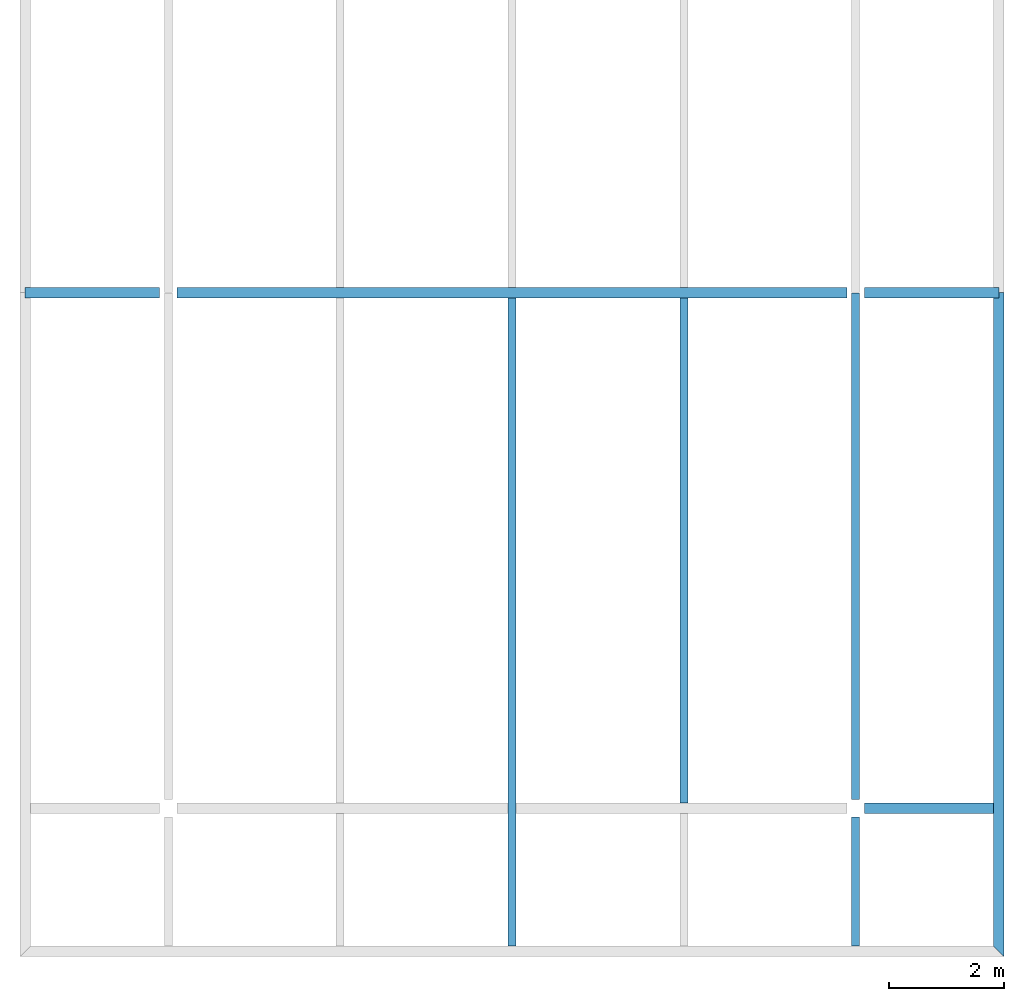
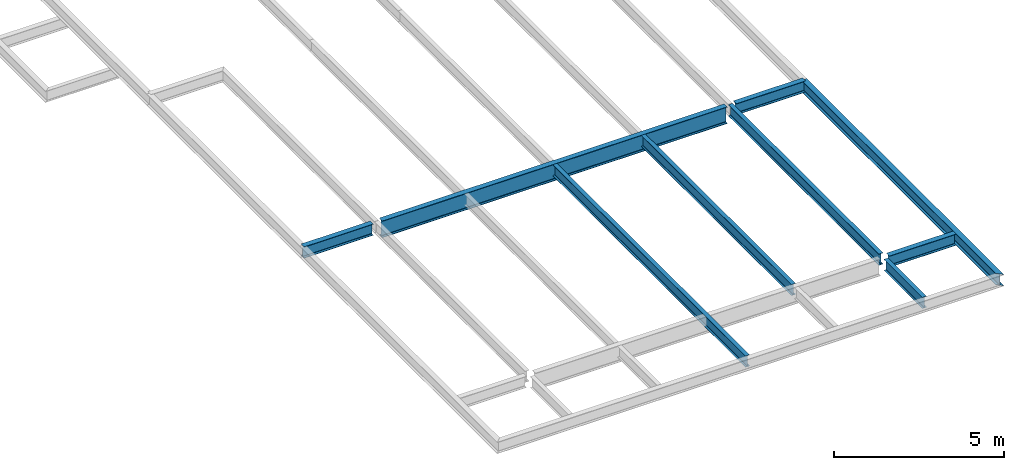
# One storey, part 2 of 7: 9 beams.
"""IFC2X3 building model written with IfcOpenShell, lengths in millimetres."""

import ifcopenshell
import ifcopenshell.guid

model = None  # the IFC model being written
_history = None  # IfcOwnerHistory: only IFC2X3 demands one
_inside = {}  # id of a spatial element -> (the spatial element, [elements in it])
_under = {}  # id of a project, library or spatial element -> (it, [spatial elements below it])
_declared = {}  # id of a project -> (the project, [libraries it declares])
_typed = {}  # id of a type object -> (the type object, [elements of that type])
_made_of = {}  # id of a material, layer set ... -> (it, [elements and type objects made of it])


def new_model(schema):
    """Start an empty IFC model of exactly this schema.

    Asked for "IFC4X3", IfcOpenShell would pick the latest addendum, in which some entities
    have other attributes; the version numbers below select the first issue.
    IFC2X3 requires an IfcOwnerHistory on every rooted entity: one is made here for all.
    """
    global model, _history
    if schema == "IFC4X3":
        model = ifcopenshell.file(schema_version=(4, 3, 0, 0))
    else:
        model = ifcopenshell.file(schema=schema)
    _inside.clear()
    _under.clear()
    _declared.clear()
    _typed.clear()
    _made_of.clear()
    _history = None
    if model.schema == "IFC2X3":
        org = make("IfcOrganization", Name="unknown")
        user = make(
            "IfcPersonAndOrganization",
            ThePerson=make("IfcPerson", FamilyName="unknown"),
            TheOrganization=org,
        )
        app = make(
            "IfcApplication",
            ApplicationDeveloper=org,
            Version="unknown",
            ApplicationFullName="unknown",
            ApplicationIdentifier="unknown",
        )
        _history = make(
            "IfcOwnerHistory",
            OwningUser=user,
            OwningApplication=app,
            ChangeAction="ADDED",
            CreationDate=0,
        )
    return model


def make(cls, **values):
    """One entity of the class cls with the attributes given. An attribute that is None is left unset."""
    return model.create_entity(
        cls, **{name: value for name, value in values.items() if value is not None}
    )


def rooted(cls, **values):
    """An entity with a GlobalId (a new one), such as an element, a storey or a relation."""
    return make(cls, GlobalId=ifcopenshell.guid.new(), OwnerHistory=_history, **values)


def si_unit(unit_type, name, prefix=None):
    """IfcSIUnit, for example si_unit("LENGTHUNIT", "METRE", prefix="MILLI")."""
    return make("IfcSIUnit", UnitType=unit_type, Prefix=prefix, Name=name)


def assignment(units):
    """IfcUnitAssignment: the units of a project."""
    return None if units is None else make("IfcUnitAssignment", Units=units)


def point(xyz):
    """IfcCartesianPoint."""
    return None if xyz is None else make("IfcCartesianPoint", Coordinates=xyz)


def direction(xyz):
    """IfcDirection."""
    return None if xyz is None else make("IfcDirection", DirectionRatios=xyz)


def frame(location, z_axis=None, x_axis=None):
    """IfcAxis2Placement3D, a coordinate frame: its origin and axes. An axis left out is left unset."""
    return make(
        "IfcAxis2Placement3D",
        Location=point(location),
        Axis=direction(z_axis),
        RefDirection=direction(x_axis),
    )


def origin():
    """The frame at (0, 0, 0) with its axes left unset."""
    return frame((0.0, 0.0, 0.0))


def place(relative_to, where):
    """IfcLocalPlacement: puts the frame where relative to a parent placement (None: the world)."""
    return make(
        "IfcLocalPlacement", PlacementRelTo=relative_to, RelativePlacement=where
    )


def context(
    kind, dimensions, precision=None, world=None, true_north=None, identifier=None
):
    """IfcGeometricRepresentationContext, for example the 3D "Model" context."""
    return make(
        "IfcGeometricRepresentationContext",
        ContextIdentifier=identifier,
        ContextType=kind,
        CoordinateSpaceDimension=dimensions,
        Precision=precision,
        WorldCoordinateSystem=world,
        TrueNorth=true_north,
    )


def project(units=None, contexts=None):
    """IfcProject with its units and contexts."""
    return rooted(
        "IfcProject",
        Name="project",
        RepresentationContexts=contexts,
        UnitsInContext=assignment(units),
    )


def spatial(cls, under=None, at=None, **own):
    """A site, building, storey or space (cls), placed at a placement, below another one or the project."""
    s = rooted(cls, ObjectPlacement=at, **own)
    if under is not None:
        _under.setdefault(under.id(), (under, []))[1].append(s)
    return s


def faces_of(points, faces, orient=None, outer=None):
    """IfcFace entities. A face is a list of loops; a loop is a list of indices into points, from 0.

    orient and outer hold one flag for each loop. By default every Orientation is true, the
    first loop of a face is its IfcFaceOuterBound and the others are IfcFaceBound.
    """
    made = []
    for i, loops in enumerate(faces):
        bounds = []
        for j, loop in enumerate(loops):
            is_outer = j == 0 if outer is None else outer[i][j]
            bounds.append(
                make(
                    "IfcFaceOuterBound" if is_outer else "IfcFaceBound",
                    Bound=make("IfcPolyLoop", Polygon=[points[k] for k in loop]),
                    Orientation=True if orient is None else orient[i][j],
                )
            )
        made.append(make("IfcFace", Bounds=bounds))
    return made


def faceted_brep(points, faces, orient=None, outer=None, voids=None):
    """IfcFacetedBrep: a solid bounded by flat faces; with voids (closed shells), ...WithVoids."""
    shared = [point(p) for p in points]
    hull = make("IfcClosedShell", CfsFaces=faces_of(shared, faces, orient, outer))
    if voids is None:
        return make("IfcFacetedBrep", Outer=hull)
    return make(
        "IfcFacetedBrepWithVoids",
        Outer=hull,
        Voids=[
            make(cls, CfsFaces=faces_of(shared, fs, o, b)) for cls, fs, o, b in voids
        ],
    )


def shape(context_of_items, identifier, shape_type, items):
    """IfcShapeRepresentation: the items that make up one representation, for example the "Body"."""
    return make(
        "IfcShapeRepresentation",
        ContextOfItems=context_of_items,
        RepresentationIdentifier=identifier,
        RepresentationType=shape_type,
        Items=items,
    )


def material(Name=None, Category=None):
    """IfcMaterial."""
    return make("IfcMaterial", Name=Name, Category=Category)


def made_of(thing, what):
    """Note that an element or type object is made of a material, layer set ...; save() writes the relation."""
    if what is not None:
        _made_of.setdefault(what.id(), (what, []))[1].append(thing)
    return thing


def element(
    cls,
    number,
    at=None,
    inside=None,
    cuts=None,
    type_object=None,
    material=None,
    context=None,
    identifier="Body",
    shape_type=None,
    held_by="IfcProductDefinitionShape",
    body=None,
    shapes=None,
    **own,
):
    """One element of the class cls, such as IfcWall. Its Tag is "e" and its number.

    at: its placement. inside: the storey or other place that contains it. cuts: it is an
    opening in that element (IfcRelVoidsElement). A single representation is given by context,
    identifier, shape_type and body (its items); several are given by shapes. held_by: the class
    of the entity that holds the representations. save() writes the other relations.
    """
    e = rooted(cls, Tag="e%d" % number, ObjectPlacement=at, **own)
    if body is not None:
        shapes = [shape(context, identifier, shape_type, body)]
    if shapes is not None:
        e.Representation = make(held_by, Representations=shapes)
    if inside is not None:
        _inside.setdefault(inside.id(), (inside, []))[1].append(e)
    if cuts is not None:
        rooted(
            "IfcRelVoidsElement", RelatingBuildingElement=cuts, RelatedOpeningElement=e
        )
    if type_object is not None:
        _typed.setdefault(type_object.id(), (type_object, []))[1].append(e)
    return made_of(e, material)


def aggregate(whole, parts):
    """IfcRelAggregates: a whole, such as a stair, and the parts it consists of."""
    return rooted("IfcRelAggregates", RelatingObject=whole, RelatedObjects=parts)


def save(model, path):
    """Write the relations noted so far, then the file.

    IfcRelAggregates (storeys below a building ...), IfcRelContainedInSpatialStructure (elements
    in a storey), IfcRelDefinesByType, IfcRelAssociatesMaterial and IfcRelDeclares: one each for
    every whole, place, type object, material and project.
    """
    for whole, parts in _under.values():
        aggregate(whole, parts)
    for where, things in _inside.values():
        rooted(
            "IfcRelContainedInSpatialStructure",
            RelatedElements=things,
            RelatingStructure=where,
        )
    for kind, things in _typed.values():
        rooted("IfcRelDefinesByType", RelatedObjects=things, RelatingType=kind)
    for what, things in _made_of.values():
        rooted("IfcRelAssociatesMaterial", RelatedObjects=things, RelatingMaterial=what)
    for by, libraries in _declared.values():
        rooted("IfcRelDeclares", RelatingContext=by, RelatedDefinitions=libraries)
    model.write(path)


model = new_model("IFC2X3")

# Units and contexts
context_of_model = context(None, 3, precision=1e-05, world=origin())
ifc_project = project(units=[si_unit("LENGTHUNIT", "METRE", prefix="MILLI")], contexts=[context_of_model])

# Building, storey
building = spatial("IfcBuilding", under=ifc_project, Name="Building", CompositionType="ELEMENT")
storey = spatial("IfcBuildingStorey", under=building, Name="ROF-FRM", CompositionType="ELEMENT")

# Beams
ifc_material_1 = material(Name="A992")
beam_1_placement = place(None, origin())
element("IfcBeam", 1, at=beam_1_placement, inside=storey, material=ifc_material_1, Name="B1129", context=context_of_model, shape_type="Brep", body=[
    faceted_brep([(-2500.0, 8911.0, 31266.0), (-2500.0, 9089.0, 31266.0), (-154.0, 9089.0, 31266.0), (-154.0, 8911.0, 31266.0), (-2500.0, 9089.0, 31278.8), (-154.0, 9089.0, 31278.8), (-2500.0, 9014.05, 31278.8), (-154.0, 9014.05, 31278.8), (-2500.0, 9011.41, 31279.1), (-154.0, 9011.41, 31279.1), (-2500.0, 9008.95, 31280.2), (-154.0, 9008.95, 31280.2), (-2500.0, 9006.84, 31281.8), (-154.0, 9006.84, 31281.8), (-2500.0, 9005.22, 31283.9), (-154.0, 9005.22, 31283.9), (-2500.0, 9004.2, 31286.4), (-154.0, 9004.2, 31286.4), (-2500.0, 9003.85, 31289.0), (-154.0, 9003.85, 31289.0), (-2500.0, 9003.85, 31650.0), (-154.0, 9003.85, 31650.0), (-2500.0, 9004.2, 31652.6), (-154.0, 9004.2, 31652.6), (-2500.0, 9005.22, 31655.1), (-154.0, 9005.22, 31655.1), (-2500.0, 9006.84, 31657.2), (-154.0, 9006.84, 31657.2), (-2500.0, 9008.95, 31658.8), (-154.0, 9008.95, 31658.8), (-2500.0, 9011.41, 31659.9), (-154.0, 9011.41, 31659.9), (-2500.0, 9014.05, 31660.2), (-154.0, 9014.05, 31660.2), (-2500.0, 9089.0, 31660.2), (-154.0, 9089.0, 31660.2), (-2500.0, 9089.0, 31673.0), (-154.0, 9089.0, 31673.0), (-2500.0, 8911.0, 31673.0), (-154.0, 8911.0, 31673.0), (-2500.0, 8911.0, 31660.2), (-154.0, 8911.0, 31660.2), (-2500.0, 8985.95, 31660.2), (-154.0, 8985.95, 31660.2), (-2500.0, 8988.59, 31659.9), (-154.0, 8988.59, 31659.9), (-2500.0, 8991.05, 31658.8), (-154.0, 8991.05, 31658.8), (-2500.0, 8993.16, 31657.2), (-154.0, 8993.16, 31657.2), (-2500.0, 8994.78, 31655.1), (-154.0, 8994.78, 31655.1), (-2500.0, 8995.8, 31652.6), (-154.0, 8995.8, 31652.6), (-2500.0, 8996.15, 31650.0), (-154.0, 8996.15, 31650.0), (-2500.0, 8996.15, 31289.0), (-154.0, 8996.15, 31289.0), (-2500.0, 8995.8, 31286.4), (-154.0, 8995.8, 31286.4), (-2500.0, 8994.78, 31283.9), (-154.0, 8994.78, 31283.9), (-2500.0, 8993.16, 31281.8), (-154.0, 8993.16, 31281.8), (-2500.0, 8991.05, 31280.2), (-154.0, 8991.05, 31280.2), (-2500.0, 8988.59, 31279.1), (-154.0, 8988.59, 31279.1), (-2500.0, 8985.95, 31278.8), (-154.0, 8985.95, 31278.8), (-2500.0, 8911.0, 31278.8), (-154.0, 8911.0, 31278.8)], [[[0, 1, 2, 3]], [[1, 4, 5, 2]], [[4, 6, 7, 5]], [[6, 8, 9, 7]], [[8, 10, 11, 9]], [[10, 12, 13, 11]], [[12, 14, 15, 13]], [[14, 16, 17, 15]], [[16, 18, 19, 17]], [[18, 20, 21, 19]], [[20, 22, 23, 21]], [[22, 24, 25, 23]], [[24, 26, 27, 25]], [[26, 28, 29, 27]], [[28, 30, 31, 29]], [[30, 32, 33, 31]], [[32, 34, 35, 33]], [[34, 36, 37, 35]], [[36, 38, 39, 37]], [[38, 40, 41, 39]], [[40, 42, 43, 41]], [[42, 44, 45, 43]], [[44, 46, 47, 45]], [[46, 48, 49, 47]], [[48, 50, 51, 49]], [[50, 52, 53, 51]], [[52, 54, 55, 53]], [[54, 56, 57, 55]], [[56, 58, 59, 57]], [[58, 60, 61, 59]], [[60, 62, 63, 61]], [[62, 64, 65, 63]], [[64, 66, 67, 65]], [[66, 68, 69, 67]], [[68, 70, 71, 69]], [[70, 0, 3, 71]], [[0, 70, 68, 66, 64, 62, 60, 58, 56, 54, 52, 50, 48, 46, 44, 42, 40, 38, 36, 34, 32, 30, 28, 26, 24, 22, 20, 18, 16, 14, 12, 10, 8, 6, 4, 1]], [[3, 2, 5, 7, 9, 11, 13, 15, 17, 19, 21, 23, 25, 27, 29, 31, 33, 35, 37, 39, 41, 43, 45, 47, 49, 51, 53, 55, 57, 59, 61, 63, 65, 67, 69, 71]]]),
])
ifc_material_2 = material(Name="A992")
beam_2_placement = place(None, origin())
element("IfcBeam", 2, at=beam_2_placement, inside=storey, material=ifc_material_2, Name="B1137", context=context_of_model, shape_type="Brep", body=[
    faceted_brep([(14590.0, -2590.0, 31260.0), (14410.0, -2410.0, 31260.0), (14410.0, 9000.0, 31260.0), (14590.0, 9000.0, 31260.0), (14410.0, -2410.0, 31276.0), (14410.0, 9000.0, 31276.0), (14485.0, -2484.95, 31276.0), (14485.0, 9000.0, 31276.0), (14486.5, -2486.53, 31276.1), (14486.5, 9000.0, 31276.1), (14488.1, -2488.09, 31276.5), (14488.1, 9000.0, 31276.5), (14489.6, -2489.55, 31277.1), (14489.6, 9000.0, 31277.1), (14490.9, -2490.91, 31277.9), (14490.9, 9000.0, 31277.9), (14492.2, -2492.16, 31279.0), (14492.2, 9000.0, 31279.0), (14493.2, -2493.17, 31280.2), (14493.2, 9000.0, 31280.2), (14494.0, -2494.03, 31281.5), (14494.0, 9000.0, 31281.6), (14494.6, -2494.63, 31283.0), (14494.7, 9000.0, 31283.0), (14495.0, -2494.99, 31284.6), (14495.0, 9000.0, 31284.6), (14495.2, -2495.15, 31286.2), (14495.2, 9000.0, 31286.2), (14495.2, -2495.15, 31646.8), (14495.2, 9000.0, 31646.8), (14495.0, -2494.99, 31648.4), (14495.0, 9000.0, 31648.4), (14494.6, -2494.63, 31650.0), (14494.7, 9000.0, 31650.0), (14494.0, -2494.03, 31651.5), (14494.0, 9000.0, 31651.4), (14493.2, -2493.17, 31652.8), (14493.2, 9000.0, 31652.8), (14492.2, -2492.16, 31654.0), (14492.2, 9000.0, 31654.0), (14490.9, -2490.91, 31655.1), (14490.9, 9000.0, 31655.1), (14489.6, -2489.55, 31655.9), (14489.6, 9000.0, 31655.9), (14488.1, -2488.09, 31656.5), (14488.1, 9000.0, 31656.5), (14486.5, -2486.53, 31656.9), (14486.5, 9000.0, 31656.9), (14485.0, -2484.95, 31657.0), (14485.0, 9000.0, 31657.0), (14410.0, -2410.0, 31657.0), (14410.0, 9000.0, 31657.0), (14410.0, -2410.0, 31673.0), (14410.0, 9000.0, 31673.0), (14590.0, -2590.0, 31673.0), (14590.0, 9000.0, 31673.0), (14590.0, -2590.0, 31657.0), (14590.0, 9000.0, 31657.0), (14515.0, -2515.05, 31657.0), (14515.0, 9000.0, 31657.0), (14513.5, -2513.47, 31656.9), (14513.5, 9000.0, 31656.9), (14511.9, -2511.91, 31656.5), (14511.9, 9000.0, 31656.5), (14510.4, -2510.45, 31655.9), (14510.4, 9000.0, 31655.9), (14509.1, -2509.09, 31655.1), (14509.1, 9000.0, 31655.1), (14507.8, -2507.84, 31654.0), (14507.8, 9000.0, 31654.0), (14506.8, -2506.83, 31652.8), (14506.8, 9000.0, 31652.8), (14506.0, -2505.97, 31651.5), (14506.0, 9000.0, 31651.4), (14505.4, -2505.37, 31650.0), (14505.3, 9000.0, 31650.0), (14505.0, -2505.01, 31648.4), (14505.0, 9000.0, 31648.4), (14504.8, -2504.85, 31646.8), (14504.8, 9000.0, 31646.8), (14504.8, -2504.85, 31286.2), (14504.8, 9000.0, 31286.2), (14505.0, -2505.01, 31284.6), (14505.0, 9000.0, 31284.6), (14505.4, -2505.37, 31283.0), (14505.3, 9000.0, 31283.0), (14506.0, -2505.97, 31281.5), (14506.0, 9000.0, 31281.6), (14506.8, -2506.83, 31280.2), (14506.8, 9000.0, 31280.2), (14507.8, -2507.84, 31279.0), (14507.8, 9000.0, 31279.0), (14509.1, -2509.09, 31277.9), (14509.1, 9000.0, 31277.9), (14510.4, -2510.45, 31277.1), (14510.4, 9000.0, 31277.1), (14511.9, -2511.91, 31276.5), (14511.9, 9000.0, 31276.5), (14513.5, -2513.47, 31276.1), (14513.5, 9000.0, 31276.1), (14515.0, -2515.05, 31276.0), (14515.0, 9000.0, 31276.0), (14590.0, -2590.0, 31276.0), (14590.0, 9000.0, 31276.0)], [[[0, 1, 2, 3]], [[1, 4, 5, 2]], [[4, 6, 7, 5]], [[6, 8, 9, 7]], [[8, 10, 11, 9]], [[10, 12, 13, 11]], [[12, 14, 15, 13]], [[14, 16, 17, 15]], [[16, 18, 19, 17]], [[18, 20, 21, 19]], [[20, 22, 23, 21]], [[22, 24, 25, 23]], [[24, 26, 27, 25]], [[26, 28, 29, 27]], [[28, 30, 31, 29]], [[30, 32, 33, 31]], [[32, 34, 35, 33]], [[34, 36, 37, 35]], [[36, 38, 39, 37]], [[38, 40, 41, 39]], [[40, 42, 43, 41]], [[42, 44, 45, 43]], [[44, 46, 47, 45]], [[46, 48, 49, 47]], [[48, 50, 51, 49]], [[50, 52, 53, 51]], [[52, 54, 55, 53]], [[54, 56, 57, 55]], [[56, 58, 59, 57]], [[58, 60, 61, 59]], [[60, 62, 63, 61]], [[62, 64, 65, 63]], [[64, 66, 67, 65]], [[66, 68, 69, 67]], [[68, 70, 71, 69]], [[70, 72, 73, 71]], [[72, 74, 75, 73]], [[74, 76, 77, 75]], [[76, 78, 79, 77]], [[78, 80, 81, 79]], [[80, 82, 83, 81]], [[82, 84, 85, 83]], [[84, 86, 87, 85]], [[86, 88, 89, 87]], [[88, 90, 91, 89]], [[90, 92, 93, 91]], [[92, 94, 95, 93]], [[94, 96, 97, 95]], [[96, 98, 99, 97]], [[98, 100, 101, 99]], [[100, 102, 103, 101]], [[102, 0, 3, 103]], [[0, 102, 100, 98, 96, 94, 92, 90, 88, 86, 84, 82, 80, 78, 76, 74, 72, 70, 68, 66, 64, 62, 60, 58, 56, 54, 52, 50, 48, 46, 44, 42, 40, 38, 36, 34, 32, 30, 28, 26, 24, 22, 20, 18, 16, 14, 12, 10, 8, 6, 4, 1]], [[3, 2, 5, 7, 9, 11, 13, 15, 17, 19, 21, 23, 25, 27, 29, 31, 33, 35, 37, 39, 41, 43, 45, 47, 49, 51, 53, 55, 57, 59, 61, 63, 65, 67, 69, 71, 73, 75, 77, 79, 81, 83, 85, 87, 89, 91, 93, 95, 97, 99, 101, 103]]]),
])
ifc_material_3 = material(Name="A992")
beam_3_placement = place(None, origin())
element("IfcBeam", 3, at=beam_3_placement, inside=storey, material=ifc_material_3, Name="B1159", context=context_of_model, shape_type="Brep", body=[
    faceted_brep([(5930.0, 8910.5, 31270.0), (6070.0, 8910.5, 31270.0), (6070.0, -2410.0, 31270.0), (5930.0, -2410.0, 31270.0), (6070.0, 8910.5, 31281.2), (6070.0, -2410.0, 31281.2), (6013.7, 8910.5, 31281.2), (6013.7, -2410.0, 31281.2), (6011.06, 8910.5, 31281.5), (6011.06, -2410.0, 31281.5), (6008.6, 8910.5, 31282.6), (6008.6, -2410.0, 31282.6), (6006.49, 8910.5, 31284.2), (6006.49, -2410.0, 31284.2), (6004.87, 8910.5, 31286.3), (6004.87, -2410.0, 31286.3), (6003.85, 8910.5, 31288.8), (6003.85, -2410.0, 31288.8), (6003.5, 8910.5, 31291.4), (6003.5, -2410.0, 31291.4), (6003.5, 8910.5, 31651.6), (6003.5, -2410.0, 31651.6), (6003.85, 8910.5, 31654.2), (6003.85, -2410.0, 31654.2), (6004.87, 8910.5, 31656.7), (6004.87, -2410.0, 31656.7), (6006.49, 8910.5, 31658.8), (6006.49, -2410.0, 31658.8), (6008.6, 8910.5, 31660.4), (6008.6, -2410.0, 31660.4), (6011.06, 8910.5, 31661.5), (6011.06, -2410.0, 31661.5), (6013.7, 8910.5, 31661.8), (6013.7, -2410.0, 31661.8), (6070.0, 8910.5, 31661.8), (6070.0, -2410.0, 31661.8), (6070.0, 8910.5, 31673.0), (6070.0, -2410.0, 31673.0), (5930.0, 8910.5, 31673.0), (5930.0, -2410.0, 31673.0), (5930.0, 8910.5, 31661.8), (5930.0, -2410.0, 31661.8), (5986.3, 8910.5, 31661.8), (5986.3, -2410.0, 31661.8), (5988.94, 8910.5, 31661.5), (5988.94, -2410.0, 31661.5), (5991.4, 8910.5, 31660.4), (5991.4, -2410.0, 31660.4), (5993.51, 8910.5, 31658.8), (5993.51, -2410.0, 31658.8), (5995.13, 8910.5, 31656.7), (5995.13, -2410.0, 31656.7), (5996.15, 8910.5, 31654.2), (5996.15, -2410.0, 31654.2), (5996.5, 8910.5, 31651.6), (5996.5, -2410.0, 31651.6), (5996.5, 8910.5, 31291.4), (5996.5, -2410.0, 31291.4), (5996.15, 8910.5, 31288.8), (5996.15, -2410.0, 31288.8), (5995.13, 8910.5, 31286.3), (5995.13, -2410.0, 31286.3), (5993.51, 8910.5, 31284.2), (5993.51, -2410.0, 31284.2), (5991.4, 8910.5, 31282.6), (5991.4, -2410.0, 31282.6), (5988.94, 8910.5, 31281.5), (5988.94, -2410.0, 31281.5), (5986.3, 8910.5, 31281.2), (5986.3, -2410.0, 31281.2), (5930.0, 8910.5, 31281.2), (5930.0, -2410.0, 31281.2)], [[[0, 1, 2, 3]], [[1, 4, 5, 2]], [[4, 6, 7, 5]], [[6, 8, 9, 7]], [[8, 10, 11, 9]], [[10, 12, 13, 11]], [[12, 14, 15, 13]], [[14, 16, 17, 15]], [[16, 18, 19, 17]], [[18, 20, 21, 19]], [[20, 22, 23, 21]], [[22, 24, 25, 23]], [[24, 26, 27, 25]], [[26, 28, 29, 27]], [[28, 30, 31, 29]], [[30, 32, 33, 31]], [[32, 34, 35, 33]], [[34, 36, 37, 35]], [[36, 38, 39, 37]], [[38, 40, 41, 39]], [[40, 42, 43, 41]], [[42, 44, 45, 43]], [[44, 46, 47, 45]], [[46, 48, 49, 47]], [[48, 50, 51, 49]], [[50, 52, 53, 51]], [[52, 54, 55, 53]], [[54, 56, 57, 55]], [[56, 58, 59, 57]], [[58, 60, 61, 59]], [[60, 62, 63, 61]], [[62, 64, 65, 63]], [[64, 66, 67, 65]], [[66, 68, 69, 67]], [[68, 70, 71, 69]], [[70, 0, 3, 71]], [[0, 70, 68, 66, 64, 62, 60, 58, 56, 54, 52, 50, 48, 46, 44, 42, 40, 38, 36, 34, 32, 30, 28, 26, 24, 22, 20, 18, 16, 14, 12, 10, 8, 6, 4, 1]], [[3, 2, 5, 7, 9, 11, 13, 15, 17, 19, 21, 23, 25, 27, 29, 31, 33, 35, 37, 39, 41, 43, 45, 47, 49, 51, 53, 55, 57, 59, 61, 63, 65, 67, 69, 71]]]),
])
ifc_material_4 = material(Name="A992")
beam_4_placement = place(None, origin())
element("IfcBeam", 4, at=beam_4_placement, inside=storey, material=ifc_material_4, Name="B1162", context=context_of_model, shape_type="Brep", body=[
    faceted_brep([(8930.0, 8910.5, 31270.0), (9070.0, 8910.5, 31270.0), (9070.0, 89.5, 31270.0), (8930.0, 89.5, 31270.0), (9070.0, 8910.5, 31281.2), (9070.0, 89.5, 31281.2), (9013.7, 8910.5, 31281.2), (9013.7, 89.5, 31281.2), (9011.06, 8910.5, 31281.5), (9011.06, 89.5, 31281.5), (9008.6, 8910.5, 31282.6), (9008.6, 89.5, 31282.6), (9006.49, 8910.5, 31284.2), (9006.49, 89.5, 31284.2), (9004.87, 8910.5, 31286.3), (9004.87, 89.5, 31286.3), (9003.85, 8910.5, 31288.8), (9003.85, 89.5, 31288.8), (9003.5, 8910.5, 31291.4), (9003.5, 89.5, 31291.4), (9003.5, 8910.5, 31651.6), (9003.5, 89.5, 31651.6), (9003.85, 8910.5, 31654.2), (9003.85, 89.5, 31654.2), (9004.87, 8910.5, 31656.7), (9004.87, 89.5, 31656.7), (9006.49, 8910.5, 31658.8), (9006.49, 89.5, 31658.8), (9008.6, 8910.5, 31660.4), (9008.6, 89.5, 31660.4), (9011.06, 8910.5, 31661.5), (9011.06, 89.5, 31661.5), (9013.7, 8910.5, 31661.8), (9013.7, 89.5, 31661.8), (9070.0, 8910.5, 31661.8), (9070.0, 89.5, 31661.8), (9070.0, 8910.5, 31673.0), (9070.0, 89.5, 31673.0), (8930.0, 8910.5, 31673.0), (8930.0, 89.5, 31673.0), (8930.0, 8910.5, 31661.8), (8930.0, 89.5, 31661.8), (8986.3, 8910.5, 31661.8), (8986.3, 89.5, 31661.8), (8988.94, 8910.5, 31661.5), (8988.94, 89.5, 31661.5), (8991.4, 8910.5, 31660.4), (8991.4, 89.5, 31660.4), (8993.51, 8910.5, 31658.8), (8993.51, 89.5, 31658.8), (8995.13, 8910.5, 31656.7), (8995.13, 89.5, 31656.7), (8996.15, 8910.5, 31654.2), (8996.15, 89.5, 31654.2), (8996.5, 8910.5, 31651.6), (8996.5, 89.5, 31651.6), (8996.5, 8910.5, 31291.4), (8996.5, 89.5, 31291.4), (8996.15, 8910.5, 31288.8), (8996.15, 89.5, 31288.8), (8995.13, 8910.5, 31286.3), (8995.13, 89.5, 31286.3), (8993.51, 8910.5, 31284.2), (8993.51, 89.5, 31284.2), (8991.4, 8910.5, 31282.6), (8991.4, 89.5, 31282.6), (8988.94, 8910.5, 31281.5), (8988.94, 89.5, 31281.5), (8986.3, 8910.5, 31281.2), (8986.3, 89.5, 31281.2), (8930.0, 8910.5, 31281.2), (8930.0, 89.5, 31281.2)], [[[0, 1, 2, 3]], [[1, 4, 5, 2]], [[4, 6, 7, 5]], [[6, 8, 9, 7]], [[8, 10, 11, 9]], [[10, 12, 13, 11]], [[12, 14, 15, 13]], [[14, 16, 17, 15]], [[16, 18, 19, 17]], [[18, 20, 21, 19]], [[20, 22, 23, 21]], [[22, 24, 25, 23]], [[24, 26, 27, 25]], [[26, 28, 29, 27]], [[28, 30, 31, 29]], [[30, 32, 33, 31]], [[32, 34, 35, 33]], [[34, 36, 37, 35]], [[36, 38, 39, 37]], [[38, 40, 41, 39]], [[40, 42, 43, 41]], [[42, 44, 45, 43]], [[44, 46, 47, 45]], [[46, 48, 49, 47]], [[48, 50, 51, 49]], [[50, 52, 53, 51]], [[52, 54, 55, 53]], [[54, 56, 57, 55]], [[56, 58, 59, 57]], [[58, 60, 61, 59]], [[60, 62, 63, 61]], [[62, 64, 65, 63]], [[64, 66, 67, 65]], [[66, 68, 69, 67]], [[68, 70, 71, 69]], [[70, 0, 3, 71]], [[0, 70, 68, 66, 64, 62, 60, 58, 56, 54, 52, 50, 48, 46, 44, 42, 40, 38, 36, 34, 32, 30, 28, 26, 24, 22, 20, 18, 16, 14, 12, 10, 8, 6, 4, 1]], [[3, 2, 5, 7, 9, 11, 13, 15, 17, 19, 21, 23, 25, 27, 29, 31, 33, 35, 37, 39, 41, 43, 45, 47, 49, 51, 53, 55, 57, 59, 61, 63, 65, 67, 69, 71]]]),
])
ifc_material_5 = material(Name="A992")
beam_5_placement = place(None, origin())
element("IfcBeam", 5, at=beam_5_placement, inside=storey, material=ifc_material_5, Name="B1164", context=context_of_model, shape_type="Brep", body=[
    faceted_brep([(11930.0, -152.5, 31274.0), (12070.0, -152.5, 31274.0), (12070.0, -2410.0, 31274.0), (11930.0, -2410.0, 31274.0), (12070.0, -152.5, 31282.8), (12070.0, -2410.0, 31282.8), (12013.4, -152.5, 31282.8), (12013.4, -2410.0, 31282.8), (12010.8, -152.5, 31283.1), (12010.8, -2410.0, 31283.1), (12008.3, -152.5, 31284.2), (12008.3, -2410.0, 31284.2), (12006.2, -152.5, 31285.8), (12006.2, -2410.0, 31285.8), (12004.6, -152.5, 31287.9), (12004.6, -2410.0, 31287.9), (12003.5, -152.5, 31290.4), (12003.5, -2410.0, 31290.4), (12003.2, -152.5, 31293.0), (12003.2, -2410.0, 31293.0), (12003.2, -152.5, 31654.0), (12003.2, -2410.0, 31654.0), (12003.5, -152.5, 31656.6), (12003.5, -2410.0, 31656.6), (12004.6, -152.5, 31659.1), (12004.6, -2410.0, 31659.1), (12006.2, -152.5, 31661.2), (12006.2, -2410.0, 31661.2), (12008.3, -152.5, 31662.8), (12008.3, -2410.0, 31662.8), (12010.8, -152.5, 31663.9), (12010.8, -2410.0, 31663.9), (12013.4, -152.5, 31664.2), (12013.4, -2410.0, 31664.2), (12070.0, -152.5, 31664.2), (12070.0, -2410.0, 31664.2), (12070.0, -152.5, 31673.0), (12070.0, -2410.0, 31673.0), (11930.0, -152.5, 31673.0), (11930.0, -2410.0, 31673.0), (11930.0, -152.5, 31664.2), (11930.0, -2410.0, 31664.2), (11986.6, -152.5, 31664.2), (11986.6, -2410.0, 31664.2), (11989.2, -152.5, 31663.9), (11989.2, -2410.0, 31663.9), (11991.7, -152.5, 31662.8), (11991.7, -2410.0, 31662.8), (11993.8, -152.5, 31661.2), (11993.8, -2410.0, 31661.2), (11995.4, -152.5, 31659.1), (11995.4, -2410.0, 31659.1), (11996.5, -152.5, 31656.6), (11996.5, -2410.0, 31656.6), (11996.8, -152.5, 31654.0), (11996.8, -2410.0, 31654.0), (11996.8, -152.5, 31293.0), (11996.8, -2410.0, 31293.0), (11996.5, -152.5, 31290.4), (11996.5, -2410.0, 31290.4), (11995.4, -152.5, 31287.9), (11995.4, -2410.0, 31287.9), (11993.8, -152.5, 31285.8), (11993.8, -2410.0, 31285.8), (11991.7, -152.5, 31284.2), (11991.7, -2410.0, 31284.2), (11989.2, -152.5, 31283.1), (11989.2, -2410.0, 31283.1), (11986.6, -152.5, 31282.8), (11986.6, -2410.0, 31282.8), (11930.0, -152.5, 31282.8), (11930.0, -2410.0, 31282.8)], [[[0, 1, 2, 3]], [[1, 4, 5, 2]], [[4, 6, 7, 5]], [[6, 8, 9, 7]], [[8, 10, 11, 9]], [[10, 12, 13, 11]], [[12, 14, 15, 13]], [[14, 16, 17, 15]], [[16, 18, 19, 17]], [[18, 20, 21, 19]], [[20, 22, 23, 21]], [[22, 24, 25, 23]], [[24, 26, 27, 25]], [[26, 28, 29, 27]], [[28, 30, 31, 29]], [[30, 32, 33, 31]], [[32, 34, 35, 33]], [[34, 36, 37, 35]], [[36, 38, 39, 37]], [[38, 40, 41, 39]], [[40, 42, 43, 41]], [[42, 44, 45, 43]], [[44, 46, 47, 45]], [[46, 48, 49, 47]], [[48, 50, 51, 49]], [[50, 52, 53, 51]], [[52, 54, 55, 53]], [[54, 56, 57, 55]], [[56, 58, 59, 57]], [[58, 60, 61, 59]], [[60, 62, 63, 61]], [[62, 64, 65, 63]], [[64, 66, 67, 65]], [[66, 68, 69, 67]], [[68, 70, 71, 69]], [[70, 0, 3, 71]], [[0, 70, 68, 66, 64, 62, 60, 58, 56, 54, 52, 50, 48, 46, 44, 42, 40, 38, 36, 34, 32, 30, 28, 26, 24, 22, 20, 18, 16, 14, 12, 10, 8, 6, 4, 1]], [[3, 2, 5, 7, 9, 11, 13, 15, 17, 19, 21, 23, 25, 27, 29, 31, 33, 35, 37, 39, 41, 43, 45, 47, 49, 51, 53, 55, 57, 59, 61, 63, 65, 67, 69, 71]]]),
])
ifc_material_6 = material(Name="A992")
beam_6_placement = place(None, origin())
element("IfcBeam", 6, at=beam_6_placement, inside=storey, material=ifc_material_6, Name="B1165", context=context_of_model, shape_type="Brep", body=[
    faceted_brep([(11930.0, 8995.05, 31270.0), (12070.0, 8995.05, 31270.0), (12070.0, 152.5, 31270.0), (11930.0, 152.5, 31270.0), (12070.0, 8995.05, 31281.2), (12070.0, 152.5, 31281.2), (12013.7, 8995.05, 31281.2), (12013.7, 152.5, 31281.2), (12011.1, 8995.05, 31281.5), (12011.1, 152.5, 31281.5), (12008.6, 8995.05, 31282.6), (12008.6, 152.5, 31282.6), (12006.5, 8995.05, 31284.2), (12006.5, 152.5, 31284.2), (12004.9, 8995.05, 31286.3), (12004.9, 152.5, 31286.3), (12003.8, 8995.05, 31288.8), (12003.8, 152.5, 31288.8), (12003.5, 8995.05, 31291.4), (12003.5, 152.5, 31291.4), (12003.5, 8995.05, 31651.6), (12003.5, 152.5, 31651.6), (12003.8, 8995.05, 31654.2), (12003.8, 152.5, 31654.2), (12004.9, 8995.05, 31656.7), (12004.9, 152.5, 31656.7), (12006.5, 8995.05, 31658.8), (12006.5, 152.5, 31658.8), (12008.6, 8995.05, 31660.4), (12008.6, 152.5, 31660.4), (12011.1, 8995.05, 31661.5), (12011.1, 152.5, 31661.5), (12013.7, 8995.05, 31661.8), (12013.7, 152.5, 31661.8), (12070.0, 8995.05, 31661.8), (12070.0, 152.5, 31661.8), (12070.0, 8995.05, 31673.0), (12070.0, 152.5, 31673.0), (11930.0, 8995.05, 31673.0), (11930.0, 152.5, 31673.0), (11930.0, 8995.05, 31661.8), (11930.0, 152.5, 31661.8), (11986.3, 8995.05, 31661.8), (11986.3, 152.5, 31661.8), (11988.9, 8995.05, 31661.5), (11988.9, 152.5, 31661.5), (11991.4, 8995.05, 31660.4), (11991.4, 152.5, 31660.4), (11993.5, 8995.05, 31658.8), (11993.5, 152.5, 31658.8), (11995.1, 8995.05, 31656.7), (11995.1, 152.5, 31656.7), (11996.2, 8995.05, 31654.2), (11996.2, 152.5, 31654.2), (11996.5, 8995.05, 31651.6), (11996.5, 152.5, 31651.6), (11996.5, 8995.05, 31291.4), (11996.5, 152.5, 31291.4), (11996.2, 8995.05, 31288.8), (11996.2, 152.5, 31288.8), (11995.1, 8995.05, 31286.3), (11995.1, 152.5, 31286.3), (11993.5, 8995.05, 31284.2), (11993.5, 152.5, 31284.2), (11991.4, 8995.05, 31282.6), (11991.4, 152.5, 31282.6), (11988.9, 8995.05, 31281.5), (11988.9, 152.5, 31281.5), (11986.3, 8995.05, 31281.2), (11986.3, 152.5, 31281.2), (11930.0, 8995.05, 31281.2), (11930.0, 152.5, 31281.2)], [[[0, 1, 2, 3]], [[1, 4, 5, 2]], [[4, 6, 7, 5]], [[6, 8, 9, 7]], [[8, 10, 11, 9]], [[10, 12, 13, 11]], [[12, 14, 15, 13]], [[14, 16, 17, 15]], [[16, 18, 19, 17]], [[18, 20, 21, 19]], [[20, 22, 23, 21]], [[22, 24, 25, 23]], [[24, 26, 27, 25]], [[26, 28, 29, 27]], [[28, 30, 31, 29]], [[30, 32, 33, 31]], [[32, 34, 35, 33]], [[34, 36, 37, 35]], [[36, 38, 39, 37]], [[38, 40, 41, 39]], [[40, 42, 43, 41]], [[42, 44, 45, 43]], [[44, 46, 47, 45]], [[46, 48, 49, 47]], [[48, 50, 51, 49]], [[50, 52, 53, 51]], [[52, 54, 55, 53]], [[54, 56, 57, 55]], [[56, 58, 59, 57]], [[58, 60, 61, 59]], [[60, 62, 63, 61]], [[62, 64, 65, 63]], [[64, 66, 67, 65]], [[66, 68, 69, 67]], [[68, 70, 71, 69]], [[70, 0, 3, 71]], [[0, 70, 68, 66, 64, 62, 60, 58, 56, 54, 52, 50, 48, 46, 44, 42, 40, 38, 36, 34, 32, 30, 28, 26, 24, 22, 20, 18, 16, 14, 12, 10, 8, 6, 4, 1]], [[3, 2, 5, 7, 9, 11, 13, 15, 17, 19, 21, 23, 25, 27, 29, 31, 33, 35, 37, 39, 41, 43, 45, 47, 49, 51, 53, 55, 57, 59, 61, 63, 65, 67, 69, 71]]]),
])
ifc_material_7 = material(Name="A992")
beam_7_placement = place(None, origin())
element("IfcBeam", 7, at=beam_7_placement, inside=storey, material=ifc_material_7, Name="B1173", context=context_of_model, shape_type="Brep", body=[
    faceted_brep([(154.0, 8910.5, 31070.0), (154.0, 9089.5, 31070.0), (11846.0, 9089.5, 31070.0), (11846.0, 8910.5, 31070.0), (154.0, 9089.5, 31085.0), (11846.0, 9089.5, 31085.0), (154.0, 9020.65, 31085.0), (11846.0, 9020.65, 31085.0), (154.0, 9016.72, 31085.5), (11846.0, 9016.72, 31085.5), (154.0, 9013.05, 31087.0), (11846.0, 9013.05, 31087.0), (154.0, 9009.9, 31089.5), (11846.0, 9009.9, 31089.5), (154.0, 9007.49, 31092.6), (11846.0, 9007.49, 31092.6), (154.0, 9005.97, 31096.3), (11846.0, 9005.97, 31096.3), (154.0, 9005.45, 31100.2), (11846.0, 9005.45, 31100.2), (154.0, 9005.45, 31642.8), (11846.0, 9005.45, 31642.8), (154.0, 9005.97, 31646.7), (11846.0, 9005.97, 31646.7), (154.0, 9007.49, 31650.4), (11846.0, 9007.49, 31650.4), (154.0, 9009.9, 31653.5), (11846.0, 9009.9, 31653.5), (154.0, 9013.05, 31656.0), (11846.0, 9013.05, 31656.0), (154.0, 9016.72, 31657.5), (11846.0, 9016.72, 31657.5), (154.0, 9020.65, 31658.0), (11846.0, 9020.65, 31658.0), (154.0, 9089.5, 31658.0), (11846.0, 9089.5, 31658.0), (154.0, 9089.5, 31673.0), (11846.0, 9089.5, 31673.0), (154.0, 8910.5, 31673.0), (11846.0, 8910.5, 31673.0), (154.0, 8910.5, 31658.0), (11846.0, 8910.5, 31658.0), (154.0, 8979.35, 31658.0), (11846.0, 8979.35, 31658.0), (154.0, 8983.28, 31657.5), (11846.0, 8983.28, 31657.5), (154.0, 8986.95, 31656.0), (11846.0, 8986.95, 31656.0), (154.0, 8990.1, 31653.5), (11846.0, 8990.1, 31653.5), (154.0, 8992.51, 31650.4), (11846.0, 8992.51, 31650.4), (154.0, 8994.03, 31646.7), (11846.0, 8994.03, 31646.7), (154.0, 8994.55, 31642.8), (11846.0, 8994.55, 31642.8), (154.0, 8994.55, 31100.2), (11846.0, 8994.55, 31100.2), (154.0, 8994.03, 31096.3), (11846.0, 8994.03, 31096.3), (154.0, 8992.51, 31092.6), (11846.0, 8992.51, 31092.6), (154.0, 8990.1, 31089.5), (11846.0, 8990.1, 31089.5), (154.0, 8986.95, 31087.0), (11846.0, 8986.95, 31087.0), (154.0, 8983.28, 31085.5), (11846.0, 8983.28, 31085.5), (154.0, 8979.35, 31085.0), (11846.0, 8979.35, 31085.0), (154.0, 8910.5, 31085.0), (11846.0, 8910.5, 31085.0)], [[[0, 1, 2, 3]], [[1, 4, 5, 2]], [[4, 6, 7, 5]], [[6, 8, 9, 7]], [[8, 10, 11, 9]], [[10, 12, 13, 11]], [[12, 14, 15, 13]], [[14, 16, 17, 15]], [[16, 18, 19, 17]], [[18, 20, 21, 19]], [[20, 22, 23, 21]], [[22, 24, 25, 23]], [[24, 26, 27, 25]], [[26, 28, 29, 27]], [[28, 30, 31, 29]], [[30, 32, 33, 31]], [[32, 34, 35, 33]], [[34, 36, 37, 35]], [[36, 38, 39, 37]], [[38, 40, 41, 39]], [[40, 42, 43, 41]], [[42, 44, 45, 43]], [[44, 46, 47, 45]], [[46, 48, 49, 47]], [[48, 50, 51, 49]], [[50, 52, 53, 51]], [[52, 54, 55, 53]], [[54, 56, 57, 55]], [[56, 58, 59, 57]], [[58, 60, 61, 59]], [[60, 62, 63, 61]], [[62, 64, 65, 63]], [[64, 66, 67, 65]], [[66, 68, 69, 67]], [[68, 70, 71, 69]], [[70, 0, 3, 71]], [[0, 70, 68, 66, 64, 62, 60, 58, 56, 54, 52, 50, 48, 46, 44, 42, 40, 38, 36, 34, 32, 30, 28, 26, 24, 22, 20, 18, 16, 14, 12, 10, 8, 6, 4, 1]], [[3, 2, 5, 7, 9, 11, 13, 15, 17, 19, 21, 23, 25, 27, 29, 31, 33, 35, 37, 39, 41, 43, 45, 47, 49, 51, 53, 55, 57, 59, 61, 63, 65, 67, 69, 71]]]),
])
ifc_material_8 = material(Name="A992")
beam_8_placement = place(None, origin())
element("IfcBeam", 8, at=beam_8_placement, inside=storey, material=ifc_material_8, Name="B1174", context=context_of_model, shape_type="Brep", body=[
    faceted_brep([(12154.0, 8911.0, 31266.0), (12154.0, 9089.0, 31266.0), (14500.0, 9089.0, 31266.0), (14500.0, 8911.0, 31266.0), (12154.0, 9089.0, 31278.8), (14500.0, 9089.0, 31278.8), (12154.0, 9014.05, 31278.8), (14500.0, 9014.05, 31278.8), (12154.0, 9011.41, 31279.1), (14500.0, 9011.41, 31279.1), (12154.0, 9008.95, 31280.2), (14500.0, 9008.95, 31280.2), (12154.0, 9006.84, 31281.8), (14500.0, 9006.84, 31281.8), (12154.0, 9005.22, 31283.9), (14500.0, 9005.22, 31283.9), (12154.0, 9004.2, 31286.4), (14500.0, 9004.2, 31286.4), (12154.0, 9003.85, 31289.0), (14500.0, 9003.85, 31289.0), (12154.0, 9003.85, 31650.0), (14500.0, 9003.85, 31650.0), (12154.0, 9004.2, 31652.6), (14500.0, 9004.2, 31652.6), (12154.0, 9005.22, 31655.1), (14500.0, 9005.22, 31655.1), (12154.0, 9006.84, 31657.2), (14500.0, 9006.84, 31657.2), (12154.0, 9008.95, 31658.8), (14500.0, 9008.95, 31658.8), (12154.0, 9011.41, 31659.9), (14500.0, 9011.41, 31659.9), (12154.0, 9014.05, 31660.2), (14500.0, 9014.05, 31660.2), (12154.0, 9089.0, 31660.2), (14500.0, 9089.0, 31660.2), (12154.0, 9089.0, 31673.0), (14500.0, 9089.0, 31673.0), (12154.0, 8911.0, 31673.0), (14500.0, 8911.0, 31673.0), (12154.0, 8911.0, 31660.2), (14500.0, 8911.0, 31660.2), (12154.0, 8985.95, 31660.2), (14500.0, 8985.95, 31660.2), (12154.0, 8988.59, 31659.9), (14500.0, 8988.59, 31659.9), (12154.0, 8991.05, 31658.8), (14500.0, 8991.05, 31658.8), (12154.0, 8993.16, 31657.2), (14500.0, 8993.16, 31657.2), (12154.0, 8994.78, 31655.1), (14500.0, 8994.78, 31655.1), (12154.0, 8995.8, 31652.6), (14500.0, 8995.8, 31652.6), (12154.0, 8996.15, 31650.0), (14500.0, 8996.15, 31650.0), (12154.0, 8996.15, 31289.0), (14500.0, 8996.15, 31289.0), (12154.0, 8995.8, 31286.4), (14500.0, 8995.8, 31286.4), (12154.0, 8994.78, 31283.9), (14500.0, 8994.78, 31283.9), (12154.0, 8993.16, 31281.8), (14500.0, 8993.16, 31281.8), (12154.0, 8991.05, 31280.2), (14500.0, 8991.05, 31280.2), (12154.0, 8988.59, 31279.1), (14500.0, 8988.59, 31279.1), (12154.0, 8985.95, 31278.8), (14500.0, 8985.95, 31278.8), (12154.0, 8911.0, 31278.8), (14500.0, 8911.0, 31278.8)], [[[0, 1, 2, 3]], [[1, 4, 5, 2]], [[4, 6, 7, 5]], [[6, 8, 9, 7]], [[8, 10, 11, 9]], [[10, 12, 13, 11]], [[12, 14, 15, 13]], [[14, 16, 17, 15]], [[16, 18, 19, 17]], [[18, 20, 21, 19]], [[20, 22, 23, 21]], [[22, 24, 25, 23]], [[24, 26, 27, 25]], [[26, 28, 29, 27]], [[28, 30, 31, 29]], [[30, 32, 33, 31]], [[32, 34, 35, 33]], [[34, 36, 37, 35]], [[36, 38, 39, 37]], [[38, 40, 41, 39]], [[40, 42, 43, 41]], [[42, 44, 45, 43]], [[44, 46, 47, 45]], [[46, 48, 49, 47]], [[48, 50, 51, 49]], [[50, 52, 53, 51]], [[52, 54, 55, 53]], [[54, 56, 57, 55]], [[56, 58, 59, 57]], [[58, 60, 61, 59]], [[60, 62, 63, 61]], [[62, 64, 65, 63]], [[64, 66, 67, 65]], [[66, 68, 69, 67]], [[68, 70, 71, 69]], [[70, 0, 3, 71]], [[0, 70, 68, 66, 64, 62, 60, 58, 56, 54, 52, 50, 48, 46, 44, 42, 40, 38, 36, 34, 32, 30, 28, 26, 24, 22, 20, 18, 16, 14, 12, 10, 8, 6, 4, 1]], [[3, 2, 5, 7, 9, 11, 13, 15, 17, 19, 21, 23, 25, 27, 29, 31, 33, 35, 37, 39, 41, 43, 45, 47, 49, 51, 53, 55, 57, 59, 61, 63, 65, 67, 69, 71]]]),
])
ifc_material_9 = material(Name="A992")
beam_9_placement = place(None, origin())
element("IfcBeam", 9, at=beam_9_placement, inside=storey, material=ifc_material_9, Name="B1176", context=context_of_model, shape_type="Brep", body=[
    faceted_brep([(12152.5, -89.0, 31266.0), (12152.5, 89.0, 31266.0), (14410.0, 89.0, 31266.0), (14410.0, -89.0, 31266.0), (12152.5, 89.0, 31278.8), (14410.0, 89.0, 31278.8), (12152.5, 14.05, 31278.8), (14410.0, 14.05, 31278.8), (12152.5, 11.41, 31279.1), (14410.0, 11.41, 31279.1), (12152.5, 8.95, 31280.2), (14410.0, 8.95, 31280.2), (12152.5, 6.83751, 31281.8), (14410.0, 6.83751, 31281.8), (12152.5, 5.21654, 31283.9), (14410.0, 5.21654, 31283.9), (12152.5, 4.19756, 31286.4), (14410.0, 4.19756, 31286.4), (12152.5, 3.85, 31289.0), (14410.0, 3.85, 31289.0), (12152.5, 3.85, 31650.0), (14410.0, 3.85, 31650.0), (12152.5, 4.19756, 31652.6), (14410.0, 4.19756, 31652.6), (12152.5, 5.21654, 31655.1), (14410.0, 5.21654, 31655.1), (12152.5, 6.83751, 31657.2), (14410.0, 6.83751, 31657.2), (12152.5, 8.95, 31658.8), (14410.0, 8.95, 31658.8), (12152.5, 11.41, 31659.9), (14410.0, 11.41, 31659.9), (12152.5, 14.05, 31660.2), (14410.0, 14.05, 31660.2), (12152.5, 89.0, 31660.2), (14410.0, 89.0, 31660.2), (12152.5, 89.0, 31673.0), (14410.0, 89.0, 31673.0), (12152.5, -89.0, 31673.0), (14410.0, -89.0, 31673.0), (12152.5, -89.0, 31660.2), (14410.0, -89.0, 31660.2), (12152.5, -14.05, 31660.2), (14410.0, -14.05, 31660.2), (12152.5, -11.41, 31659.9), (14410.0, -11.41, 31659.9), (12152.5, -8.95, 31658.8), (14410.0, -8.95, 31658.8), (12152.5, -6.83751, 31657.2), (14410.0, -6.83751, 31657.2), (12152.5, -5.21654, 31655.1), (14410.0, -5.21654, 31655.1), (12152.5, -4.19756, 31652.6), (14410.0, -4.19756, 31652.6), (12152.5, -3.85, 31650.0), (14410.0, -3.85, 31650.0), (12152.5, -3.85, 31289.0), (14410.0, -3.85, 31289.0), (12152.5, -4.19756, 31286.4), (14410.0, -4.19756, 31286.4), (12152.5, -5.21654, 31283.9), (14410.0, -5.21654, 31283.9), (12152.5, -6.83751, 31281.8), (14410.0, -6.83751, 31281.8), (12152.5, -8.95, 31280.2), (14410.0, -8.95, 31280.2), (12152.5, -11.41, 31279.1), (14410.0, -11.41, 31279.1), (12152.5, -14.05, 31278.8), (14410.0, -14.05, 31278.8), (12152.5, -89.0, 31278.8), (14410.0, -89.0, 31278.8)], [[[0, 1, 2, 3]], [[1, 4, 5, 2]], [[4, 6, 7, 5]], [[6, 8, 9, 7]], [[8, 10, 11, 9]], [[10, 12, 13, 11]], [[12, 14, 15, 13]], [[14, 16, 17, 15]], [[16, 18, 19, 17]], [[18, 20, 21, 19]], [[20, 22, 23, 21]], [[22, 24, 25, 23]], [[24, 26, 27, 25]], [[26, 28, 29, 27]], [[28, 30, 31, 29]], [[30, 32, 33, 31]], [[32, 34, 35, 33]], [[34, 36, 37, 35]], [[36, 38, 39, 37]], [[38, 40, 41, 39]], [[40, 42, 43, 41]], [[42, 44, 45, 43]], [[44, 46, 47, 45]], [[46, 48, 49, 47]], [[48, 50, 51, 49]], [[50, 52, 53, 51]], [[52, 54, 55, 53]], [[54, 56, 57, 55]], [[56, 58, 59, 57]], [[58, 60, 61, 59]], [[60, 62, 63, 61]], [[62, 64, 65, 63]], [[64, 66, 67, 65]], [[66, 68, 69, 67]], [[68, 70, 71, 69]], [[70, 0, 3, 71]], [[0, 70, 68, 66, 64, 62, 60, 58, 56, 54, 52, 50, 48, 46, 44, 42, 40, 38, 36, 34, 32, 30, 28, 26, 24, 22, 20, 18, 16, 14, 12, 10, 8, 6, 4, 1]], [[3, 2, 5, 7, 9, 11, 13, 15, 17, 19, 21, 23, 25, 27, 29, 31, 33, 35, 37, 39, 41, 43, 45, 47, 49, 51, 53, 55, 57, 59, 61, 63, 65, 67, 69, 71]]]),
])

save(model, "model.ifc")
